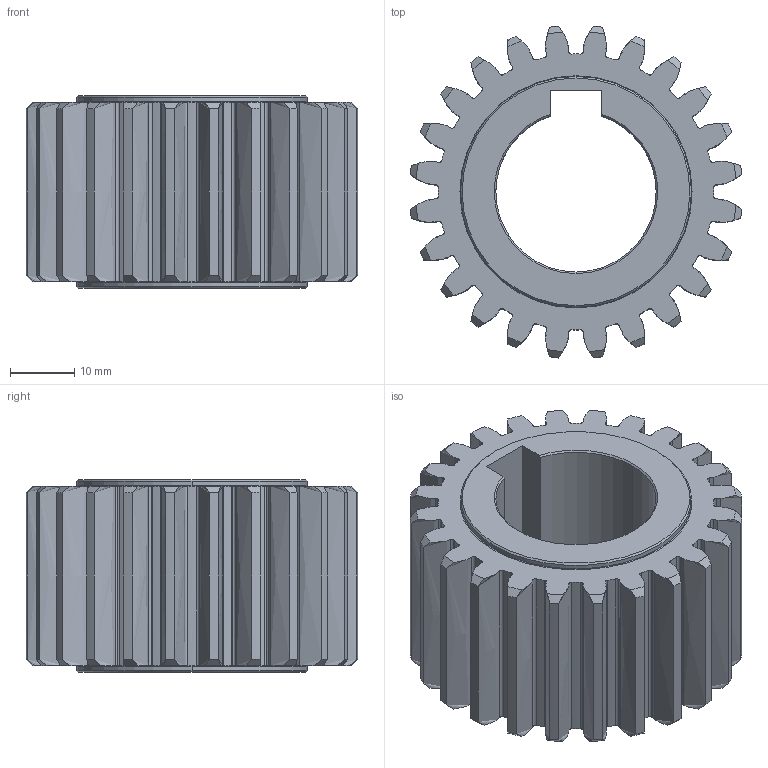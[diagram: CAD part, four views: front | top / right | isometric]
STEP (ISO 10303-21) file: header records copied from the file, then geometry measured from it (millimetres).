
FILE_DESCRIPTION (( 'STEP AP214' ), '1' );
FILE_NAME ('1SG__S020024S.STEP', '2021-08-03T07:27:57', ( '' ), ( '' ), 'SwSTEP 2.0', 'SolidWorks 2021', '' );
FILE_SCHEMA (( 'AUTOMOTIVE_DESIGN' ));
Length unit declared in the file: millimetre
Products named in the file (1): 1SG__S020024S
Bounding box: 51.72 x 51.72 x 30 mm (x, y, z)
Volume: 36191.6 mm3; surface area: 13782.7 mm2
Topology: 1 solids, 1 shells, 256 faces, 788 edges, 536 vertices
Faces by surface type: cylinder 91, bspline 72, cone 58, plane 31, torus 4
Entity records: 14910 total; most frequent: CARTESIAN_POINT 8121, ORIENTED_EDGE 1576, DIRECTION 1254, EDGE_CURVE 788, VERTEX_POINT 536, AXIS2_PLACEMENT_3D 477, LINE 300, VECTOR 300
